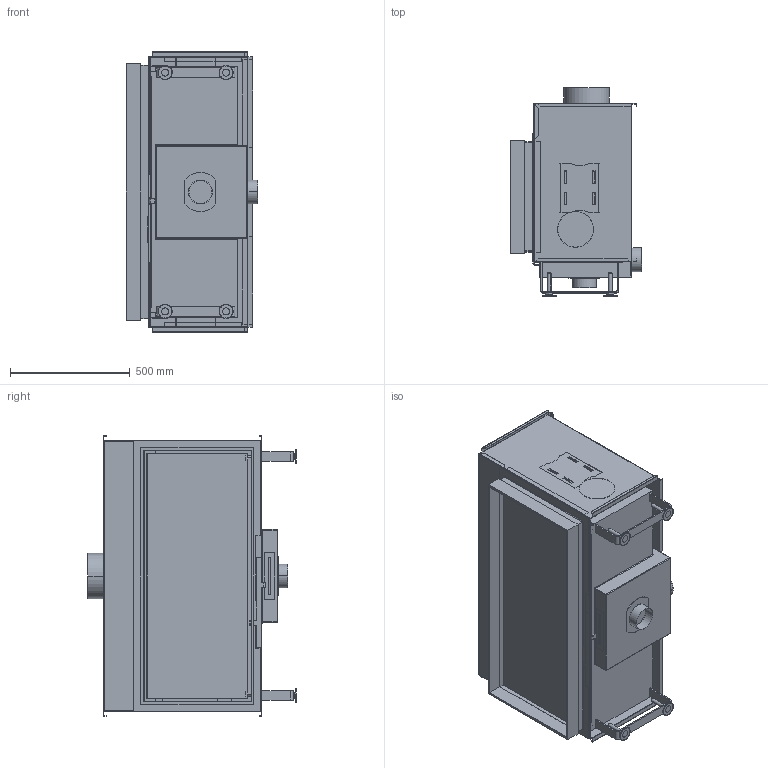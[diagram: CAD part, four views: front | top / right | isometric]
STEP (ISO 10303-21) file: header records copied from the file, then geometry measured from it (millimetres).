
FILE_DESCRIPTION(('Creo Elements/Direct Modeling STEP Export'),'2;1');
FILE_NAME('metalfire_CITIZEN 1050-45 WHE 1S.stp','2020-02-12T10:53:37',(''),(''),'PTC Creo Elements/Direct Modeling STEP processor for AP214 (Solid Model)','PTC Creo Elements/Direct Modeling 19.0B 21-Mar-2015 (C) Parametric Technology GmbH','');
FILE_SCHEMA(('AUTOMOTIVE_DESIGN { 1 0 10303 214 1 1 1 1 }'));
Length unit declared in the file: millimetre
Products named in the file (8): FinishingFrame; Options; Standard_frame; CITIZEN_MF_1045-45_WHE_1S_RECHTS_Chassis; Door; GalvaCover; CTZ_1050-45_1s; CITIZEN_MF_1050-45_WHE_1S_RECHTS
Assembly tree (7 placements, depth 3):
  CITIZEN_MF_1050-45_WHE_1S_RECHTS
    CTZ_1050-45_1s
      GalvaCover
      Door
      CITIZEN_MF_1045-45_WHE_1S_RECHTS_Chassis
      Standard_frame
    Options
      FinishingFrame
Bounding box: 548 x 871 x 1173 mm (x, y, z)
Volume: 123220332.9 mm3; surface area: 11512570.3 mm2
Topology: 5 solids, 11 shells, 1312 faces, 3725 edges, 2434 vertices
Faces by surface type: plane 889, cylinder 331, cone 56, bspline 30, sphere 4, torus 2
Entity records: 48535 total; most frequent: CARTESIAN_POINT 14181, ORIENTED_EDGE 7442, DIRECTION 6563, EDGE_CURVE 3719, VECTOR 2775, LINE 2775, VERTEX_POINT 2434, AXIS2_PLACEMENT_3D 1894
